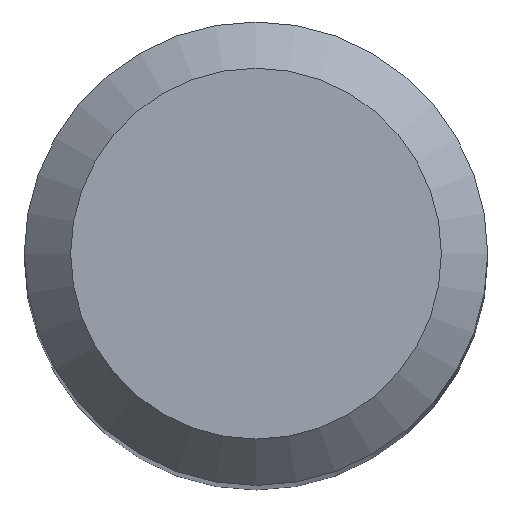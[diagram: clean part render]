
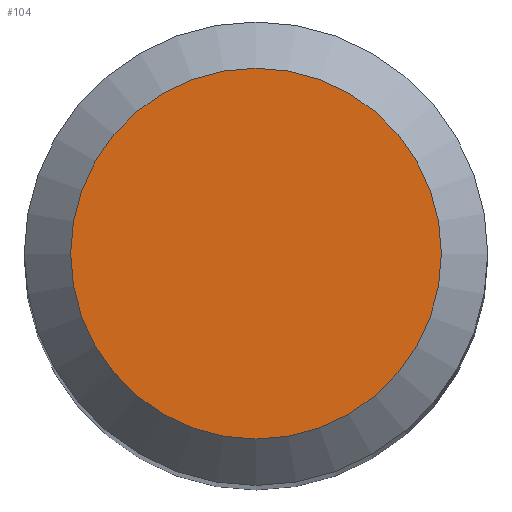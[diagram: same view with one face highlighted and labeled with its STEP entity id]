
A CAD part, top view. The second image highlights one B-rep face of the part: STEP entity #104.
In plain terms, the highlighted planar face has unit normal (0, 0, 1).
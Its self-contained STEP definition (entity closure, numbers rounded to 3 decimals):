
#88=CARTESIAN_POINT('',(4.0,0.0,130.0));
#89=DIRECTION('',(0.0,0.0,1.0));
#90=DIRECTION('',(1.0,0.0,0.0));
#91=AXIS2_PLACEMENT_3D('',#88,#89,#90);
#92=PLANE('',#91);
#93=CARTESIAN_POINT('',(-4.0,0.0,130.0));
#94=VERTEX_POINT('',#93);
#95=CARTESIAN_POINT('',(0.0,0.0,130.0));
#96=DIRECTION('',(0.0,0.0,-1.0));
#97=DIRECTION('',(-1.0,0.0,0.0));
#98=AXIS2_PLACEMENT_3D('',#95,#96,#97);
#99=CIRCLE('',#98,4.0);
#100=EDGE_CURVE('',#94,#94,#99,.T.);
#101=ORIENTED_EDGE('',*,*,#100,.F.);
#102=EDGE_LOOP('',(#101));
#103=FACE_OUTER_BOUND('',#102,.T.);
#104=ADVANCED_FACE('',(#103),#92,.T.);
